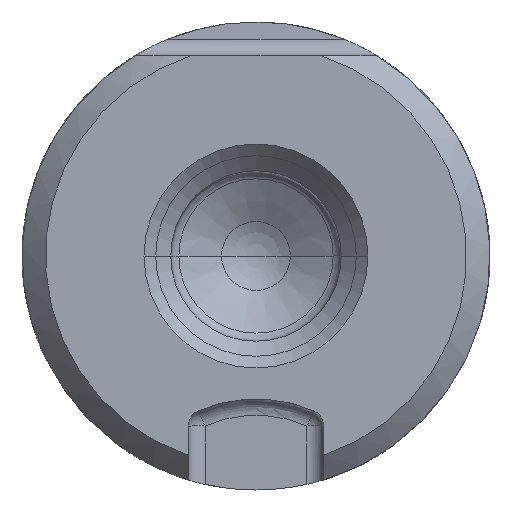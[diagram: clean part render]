
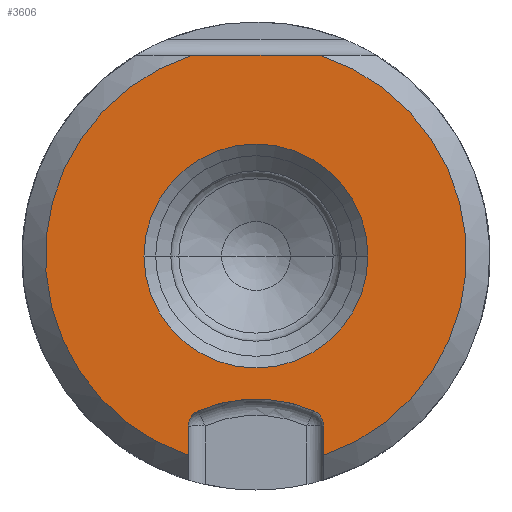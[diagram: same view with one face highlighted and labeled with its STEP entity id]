
A CAD part, left-side view. The second image highlights one B-rep face of the part: STEP entity #3606.
In plain terms, the highlighted planar face has unit normal (-1, 0, 0).
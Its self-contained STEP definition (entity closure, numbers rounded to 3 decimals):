
#960=DIRECTION('',(0.,0.,1.));
#961=VECTOR('',#960,0.876);
#962=CARTESIAN_POINT('',(-22.,9.025,-5.966));
#963=LINE('',#962,#961);
#975=CARTESIAN_POINT('',(-22.,7.,0.));
#976=DIRECTION('',(1.,0.,0.));
#977=DIRECTION('',(0.,-0.305,0.952));
#978=AXIS2_PLACEMENT_3D('',#975,#976,#977);
#980=CARTESIAN_POINT('',(-22.,5.475,-5.09));
#981=DIRECTION('',(-1.,0.,0.));
#982=DIRECTION('',(0.,-1.,0.));
#983=AXIS2_PLACEMENT_3D('',#980,#981,#982);
#985=CARTESIAN_POINT('',(-22.,7.,-8.626));
#986=DIRECTION('',(-1.,0.,0.));
#987=DIRECTION('',(0.,-0.396,0.918));
#988=AXIS2_PLACEMENT_3D('',#985,#986,#987);
#990=CARTESIAN_POINT('',(-22.,8.525,-5.09));
#991=DIRECTION('',(-1.,0.,0.));
#992=DIRECTION('',(0.,0.396,0.918));
#993=AXIS2_PLACEMENT_3D('',#990,#991,#992);
#995=CARTESIAN_POINT('',(-22.,7.,0.));
#996=DIRECTION('',(1.,0.,0.));
#997=DIRECTION('',(0.,0.321,-0.947));
#998=AXIS2_PLACEMENT_3D('',#995,#996,#997);
#1000=CARTESIAN_POINT('',(-22.,7.,0.));
#1001=DIRECTION('',(-1.,0.,0.));
#1002=DIRECTION('',(0.,1.,0.));
#1003=AXIS2_PLACEMENT_3D('',#1000,#1001,#1002);
#1005=CARTESIAN_POINT('',(-22.,7.,0.));
#1006=DIRECTION('',(-1.,0.,0.));
#1007=DIRECTION('',(0.,-1.,0.));
#1008=AXIS2_PLACEMENT_3D('',#1005,#1006,#1007);
#1010=DIRECTION('',(0.,1.,0.));
#1011=VECTOR('',#1010,3.842);
#1012=CARTESIAN_POINT('',(-22.,5.079,6.));
#1013=LINE('',#1012,#1011);
#1064=DIRECTION('',(0.,0.,-1.));
#1065=VECTOR('',#1064,0.876);
#1066=CARTESIAN_POINT('',(-22.,4.975,-5.09));
#1067=LINE('',#1066,#1065);
#1690=CARTESIAN_POINT('',(-22.,9.025,-5.966));
#1691=CARTESIAN_POINT('',(-22.,9.025,-5.09));
#1692=VERTEX_POINT('',#1690);
#1693=VERTEX_POINT('',#1691);
#1694=CARTESIAN_POINT('',(-22.,5.079,6.));
#1695=CARTESIAN_POINT('',(-22.,8.921,6.));
#1696=VERTEX_POINT('',#1694);
#1697=VERTEX_POINT('',#1695);
#1698=CARTESIAN_POINT('',(-22.,4.975,-5.966));
#1699=VERTEX_POINT('',#1698);
#1700=CARTESIAN_POINT('',(-22.,4.975,-5.09));
#1701=VERTEX_POINT('',#1700);
#1702=CARTESIAN_POINT('',(-22.,5.277,-4.631));
#1703=VERTEX_POINT('',#1702);
#1704=CARTESIAN_POINT('',(-22.,8.723,-4.631));
#1705=VERTEX_POINT('',#1704);
#1706=CARTESIAN_POINT('',(-22.,10.35,0.));
#1707=CARTESIAN_POINT('',(-22.,3.65,0.));
#1708=VERTEX_POINT('',#1706);
#1709=VERTEX_POINT('',#1707);
#3578=CARTESIAN_POINT('',(-22.,14.25,-7.25));
#3579=DIRECTION('',(-1.,0.,0.));
#3580=DIRECTION('',(0.,-1.,0.));
#3581=AXIS2_PLACEMENT_3D('',#3578,#3579,#3580);
#3582=PLANE('',#3581);
#3584=ORIENTED_EDGE('',*,*,#3583,.F.);
#3586=ORIENTED_EDGE('',*,*,#3585,.T.);
#3588=ORIENTED_EDGE('',*,*,#3587,.F.);
#3590=ORIENTED_EDGE('',*,*,#3589,.T.);
#3592=ORIENTED_EDGE('',*,*,#3591,.T.);
#3594=ORIENTED_EDGE('',*,*,#3593,.T.);
#3595=ORIENTED_EDGE('',*,*,#3567,.F.);
#3597=ORIENTED_EDGE('',*,*,#3596,.T.);
#3598=EDGE_LOOP('',(#3584,#3586,#3588,#3590,#3592,#3594,#3595,#3597));
#3599=FACE_OUTER_BOUND('',#3598,.F.);
#3601=ORIENTED_EDGE('',*,*,#3600,.T.);
#3603=ORIENTED_EDGE('',*,*,#3602,.T.);
#3604=EDGE_LOOP('',(#3601,#3603));
#3605=FACE_BOUND('',#3604,.F.);
#3606=ADVANCED_FACE('',(#3599,#3605),#3582,.T.);
#979=CIRCLE('',#978,6.3);
#984=CIRCLE('',#983,0.5);
#989=CIRCLE('',#988,4.351);
#994=CIRCLE('',#993,0.5);
#999=CIRCLE('',#998,6.3);
#1004=CIRCLE('',#1003,3.35);
#1009=CIRCLE('',#1008,3.35);
#3567=EDGE_CURVE('',#1692,#1693,#963,.T.);
#3583=EDGE_CURVE('',#1696,#1697,#1013,.T.);
#3585=EDGE_CURVE('',#1696,#1699,#979,.T.);
#3587=EDGE_CURVE('',#1701,#1699,#1067,.T.);
#3589=EDGE_CURVE('',#1701,#1703,#984,.T.);
#3591=EDGE_CURVE('',#1703,#1705,#989,.T.);
#3593=EDGE_CURVE('',#1705,#1693,#994,.T.);
#3596=EDGE_CURVE('',#1692,#1697,#999,.T.);
#3600=EDGE_CURVE('',#1708,#1709,#1004,.T.);
#3602=EDGE_CURVE('',#1709,#1708,#1009,.T.);
